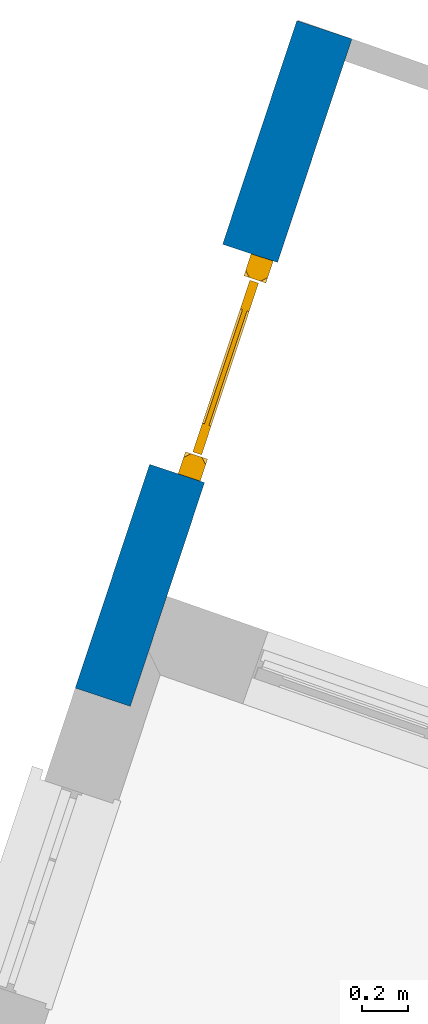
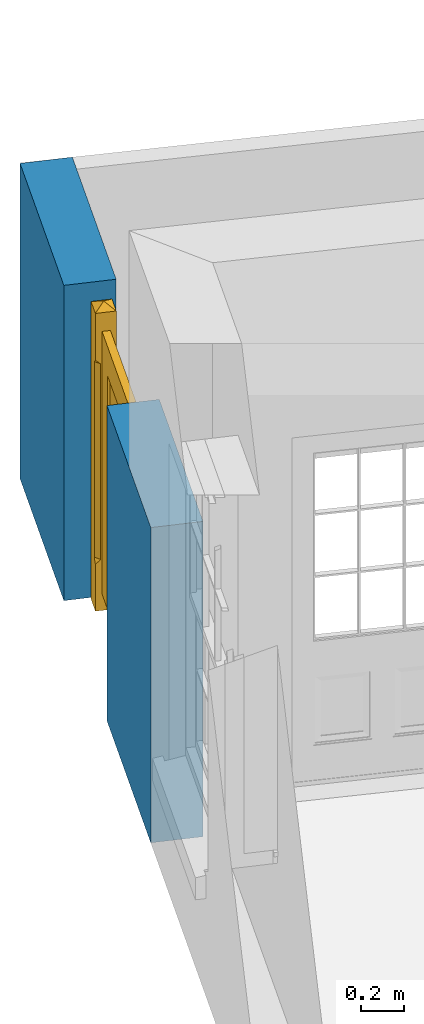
# One storey, part 6 of 10: 1 door, 1 wall, 1 opening.
"""IFC4 building model written with IfcOpenShell, lengths in metres."""

import ifcopenshell
import ifcopenshell.guid

model = None  # the IFC model being written
_history = None  # IfcOwnerHistory: only IFC2X3 demands one
_inside = {}  # id of a spatial element -> (the spatial element, [elements in it])
_under = {}  # id of a project, library or spatial element -> (it, [spatial elements below it])
_declared = {}  # id of a project -> (the project, [libraries it declares])
_typed = {}  # id of a type object -> (the type object, [elements of that type])
_made_of = {}  # id of a material, layer set ... -> (it, [elements and type objects made of it])


def new_model(schema):
    """Start an empty IFC model of exactly this schema.

    Asked for "IFC4X3", IfcOpenShell would pick the latest addendum, in which some entities
    have other attributes; the version numbers below select the first issue.
    IFC2X3 requires an IfcOwnerHistory on every rooted entity: one is made here for all.
    """
    global model, _history
    if schema == "IFC4X3":
        model = ifcopenshell.file(schema_version=(4, 3, 0, 0))
    else:
        model = ifcopenshell.file(schema=schema)
    _inside.clear()
    _under.clear()
    _declared.clear()
    _typed.clear()
    _made_of.clear()
    _history = None
    if model.schema == "IFC2X3":
        org = make("IfcOrganization", Name="unknown")
        user = make(
            "IfcPersonAndOrganization",
            ThePerson=make("IfcPerson", FamilyName="unknown"),
            TheOrganization=org,
        )
        app = make(
            "IfcApplication",
            ApplicationDeveloper=org,
            Version="unknown",
            ApplicationFullName="unknown",
            ApplicationIdentifier="unknown",
        )
        _history = make(
            "IfcOwnerHistory",
            OwningUser=user,
            OwningApplication=app,
            ChangeAction="ADDED",
            CreationDate=0,
        )
    return model


def make(cls, **values):
    """One entity of the class cls with the attributes given. An attribute that is None is left unset."""
    return model.create_entity(
        cls, **{name: value for name, value in values.items() if value is not None}
    )


def rooted(cls, **values):
    """An entity with a GlobalId (a new one), such as an element, a storey or a relation."""
    return make(cls, GlobalId=ifcopenshell.guid.new(), OwnerHistory=_history, **values)


def si_unit(unit_type, name, prefix=None):
    """IfcSIUnit, for example si_unit("LENGTHUNIT", "METRE", prefix="MILLI")."""
    return make("IfcSIUnit", UnitType=unit_type, Prefix=prefix, Name=name)


def assignment(units):
    """IfcUnitAssignment: the units of a project."""
    return None if units is None else make("IfcUnitAssignment", Units=units)


def point(xyz):
    """IfcCartesianPoint."""
    return None if xyz is None else make("IfcCartesianPoint", Coordinates=xyz)


def direction(xyz):
    """IfcDirection."""
    return None if xyz is None else make("IfcDirection", DirectionRatios=xyz)


def frame(location, z_axis=None, x_axis=None):
    """IfcAxis2Placement3D, a coordinate frame: its origin and axes. An axis left out is left unset."""
    return make(
        "IfcAxis2Placement3D",
        Location=point(location),
        Axis=direction(z_axis),
        RefDirection=direction(x_axis),
    )


def origin():
    """The frame at (0, 0, 0) with its axes left unset."""
    return frame((0.0, 0.0, 0.0))


def origin_with_axes():
    """The frame at (0, 0, 0) with the z axis (0, 0, 1) and the x axis (1, 0, 0) written out."""
    return frame((0.0, 0.0, 0.0), z_axis=(0.0, 0.0, 1.0), x_axis=(1.0, 0.0, 0.0))


def place(relative_to, where):
    """IfcLocalPlacement: puts the frame where relative to a parent placement (None: the world)."""
    return make(
        "IfcLocalPlacement", PlacementRelTo=relative_to, RelativePlacement=where
    )


def context(
    kind, dimensions, precision=None, world=None, true_north=None, identifier=None
):
    """IfcGeometricRepresentationContext, for example the 3D "Model" context."""
    return make(
        "IfcGeometricRepresentationContext",
        ContextIdentifier=identifier,
        ContextType=kind,
        CoordinateSpaceDimension=dimensions,
        Precision=precision,
        WorldCoordinateSystem=world,
        TrueNorth=true_north,
    )


def subcontext(parent, identifier, kind, view, scale=None):
    """IfcGeometricRepresentationSubContext, for example "Body" below "Model"."""
    return make(
        "IfcGeometricRepresentationSubContext",
        ContextIdentifier=identifier,
        ContextType=kind,
        ParentContext=parent,
        TargetScale=scale,
        TargetView=view,
    )


def project(units=None, contexts=None):
    """IfcProject with its units and contexts."""
    return rooted(
        "IfcProject",
        Name="project",
        RepresentationContexts=contexts,
        UnitsInContext=assignment(units),
    )


def spatial(cls, under=None, at=None, **own):
    """A site, building, storey or space (cls), placed at a placement, below another one or the project."""
    s = rooted(cls, ObjectPlacement=at, **own)
    if under is not None:
        _under.setdefault(under.id(), (under, []))[1].append(s)
    return s


def polyline(points):
    """IfcPolyline through the points."""
    return make("IfcPolyline", Points=[point(p) for p in points])


def outline(outer, holes=None, kind="AREA"):
    """IfcArbitraryClosedProfileDef: a profile drawn as a closed curve; with holes, ...WithVoids."""
    if holes is None:
        return make("IfcArbitraryClosedProfileDef", ProfileType=kind, OuterCurve=outer)
    return make(
        "IfcArbitraryProfileDefWithVoids",
        ProfileType=kind,
        OuterCurve=outer,
        InnerCurves=holes,
    )


def extrude(swept, where, along, depth):
    """IfcExtrudedAreaSolid: the profile swept, set in the frame where, extruded along a direction by depth."""
    return make(
        "IfcExtrudedAreaSolid",
        SweptArea=swept,
        Position=where,
        ExtrudedDirection=direction(along),
        Depth=depth,
    )


def faces_of(points, faces, orient=None, outer=None):
    """IfcFace entities. A face is a list of loops; a loop is a list of indices into points, from 0.

    orient and outer hold one flag for each loop. By default every Orientation is true, the
    first loop of a face is its IfcFaceOuterBound and the others are IfcFaceBound.
    """
    made = []
    for i, loops in enumerate(faces):
        bounds = []
        for j, loop in enumerate(loops):
            is_outer = j == 0 if outer is None else outer[i][j]
            bounds.append(
                make(
                    "IfcFaceOuterBound" if is_outer else "IfcFaceBound",
                    Bound=make("IfcPolyLoop", Polygon=[points[k] for k in loop]),
                    Orientation=True if orient is None else orient[i][j],
                )
            )
        made.append(make("IfcFace", Bounds=bounds))
    return made


def faceted_brep(points, faces, orient=None, outer=None, voids=None):
    """IfcFacetedBrep: a solid bounded by flat faces; with voids (closed shells), ...WithVoids."""
    shared = [point(p) for p in points]
    hull = make("IfcClosedShell", CfsFaces=faces_of(shared, faces, orient, outer))
    if voids is None:
        return make("IfcFacetedBrep", Outer=hull)
    return make(
        "IfcFacetedBrepWithVoids",
        Outer=hull,
        Voids=[
            make(cls, CfsFaces=faces_of(shared, fs, o, b)) for cls, fs, o, b in voids
        ],
    )


def shape(context_of_items, identifier, shape_type, items):
    """IfcShapeRepresentation: the items that make up one representation, for example the "Body"."""
    return make(
        "IfcShapeRepresentation",
        ContextOfItems=context_of_items,
        RepresentationIdentifier=identifier,
        RepresentationType=shape_type,
        Items=items,
    )


def source(mapping_origin, context_of_items, identifier, shape_type, items):
    """IfcRepresentationMap: a shape defined once, which mapped items show again and again."""
    return make(
        "IfcRepresentationMap",
        MappingOrigin=mapping_origin,
        MappedRepresentation=shape(context_of_items, identifier, shape_type, items),
    )


def transform(
    local_origin,
    x_axis=None,
    y_axis=None,
    z_axis=None,
    scale=None,
    scale2=None,
    scale3=None,
    uniform=True,
):
    """IfcCartesianTransformationOperator3D, or its non-uniform kind. x_axis, y_axis, z_axis: its Axis1, 2, 3."""
    if uniform:
        return make(
            "IfcCartesianTransformationOperator3D",
            Axis1=direction(x_axis),
            Axis2=direction(y_axis),
            LocalOrigin=point(local_origin),
            Scale=scale,
            Axis3=direction(z_axis),
        )
    return make(
        "IfcCartesianTransformationOperator3DnonUniform",
        Axis1=direction(x_axis),
        Axis2=direction(y_axis),
        LocalOrigin=point(local_origin),
        Scale=scale,
        Axis3=direction(z_axis),
        Scale2=scale2,
        Scale3=scale3,
    )


def mapped(mapping_source, mapping_target):
    """IfcMappedItem: shows the shape of a source again, moved by a transform."""
    return make(
        "IfcMappedItem", MappingSource=mapping_source, MappingTarget=mapping_target
    )


def material(Name=None, Category=None):
    """IfcMaterial."""
    return make("IfcMaterial", Name=Name, Category=Category)


def layer(
    of_material, thickness, ventilated=None, Name=None, Category=None, Priority=None
):
    """IfcMaterialLayer: one layer of a wall or slab, of a material (None: an air gap)."""
    return make(
        "IfcMaterialLayer",
        Material=of_material,
        LayerThickness=thickness,
        IsVentilated=ventilated,
        Name=Name,
        Category=Category,
        Priority=Priority,
    )


def layer_set(layers, Name=None):
    """IfcMaterialLayerSet."""
    return make("IfcMaterialLayerSet", MaterialLayers=layers, LayerSetName=Name)


def layer_usage(for_layer_set, set_direction, sense, offset, extent=None):
    """IfcMaterialLayerSetUsage: how a layer set lies in its element."""
    return make(
        "IfcMaterialLayerSetUsage",
        ForLayerSet=for_layer_set,
        LayerSetDirection=set_direction,
        DirectionSense=sense,
        OffsetFromReferenceLine=offset,
        ReferenceExtent=extent,
    )


def made_of(thing, what):
    """Note that an element or type object is made of a material, layer set ...; save() writes the relation."""
    if what is not None:
        _made_of.setdefault(what.id(), (what, []))[1].append(thing)
    return thing


def type_object(cls, material=None, **own):
    """A type object (cls), such as IfcWallType, which elements share."""
    return made_of(rooted(cls, **own), material)


def type_shapes(of_type, sources):
    """Give a type object the sources (RepresentationMaps) that its elements show as mapped items."""
    of_type.RepresentationMaps = sources


def element(
    cls,
    number,
    at=None,
    inside=None,
    cuts=None,
    type_object=None,
    material=None,
    context=None,
    identifier="Body",
    shape_type=None,
    held_by="IfcProductDefinitionShape",
    body=None,
    shapes=None,
    **own,
):
    """One element of the class cls, such as IfcWall. Its Tag is "e" and its number.

    at: its placement. inside: the storey or other place that contains it. cuts: it is an
    opening in that element (IfcRelVoidsElement). A single representation is given by context,
    identifier, shape_type and body (its items); several are given by shapes. held_by: the class
    of the entity that holds the representations. save() writes the other relations.
    """
    e = rooted(cls, Tag="e%d" % number, ObjectPlacement=at, **own)
    if body is not None:
        shapes = [shape(context, identifier, shape_type, body)]
    if shapes is not None:
        e.Representation = make(held_by, Representations=shapes)
    if inside is not None:
        _inside.setdefault(inside.id(), (inside, []))[1].append(e)
    if cuts is not None:
        rooted(
            "IfcRelVoidsElement", RelatingBuildingElement=cuts, RelatedOpeningElement=e
        )
    if type_object is not None:
        _typed.setdefault(type_object.id(), (type_object, []))[1].append(e)
    return made_of(e, material)


def fill(opening, filler):
    """IfcRelFillsElement: the door or window that sits in an opening."""
    return rooted(
        "IfcRelFillsElement",
        RelatingOpeningElement=opening,
        RelatedBuildingElement=filler,
    )


def aggregate(whole, parts):
    """IfcRelAggregates: a whole, such as a stair, and the parts it consists of."""
    return rooted("IfcRelAggregates", RelatingObject=whole, RelatedObjects=parts)


def save(model, path):
    """Write the relations noted so far, then the file.

    IfcRelAggregates (storeys below a building ...), IfcRelContainedInSpatialStructure (elements
    in a storey), IfcRelDefinesByType, IfcRelAssociatesMaterial and IfcRelDeclares: one each for
    every whole, place, type object, material and project.
    """
    for whole, parts in _under.values():
        aggregate(whole, parts)
    for where, things in _inside.values():
        rooted(
            "IfcRelContainedInSpatialStructure",
            RelatedElements=things,
            RelatingStructure=where,
        )
    for kind, things in _typed.values():
        rooted("IfcRelDefinesByType", RelatedObjects=things, RelatingType=kind)
    for what, things in _made_of.values():
        rooted("IfcRelAssociatesMaterial", RelatedObjects=things, RelatingMaterial=what)
    for by, libraries in _declared.values():
        rooted("IfcRelDeclares", RelatingContext=by, RelatedDefinitions=libraries)
    model.write(path)


model = new_model("IFC4")

# Units and contexts
model_context = context("Model", 3, world=origin_with_axes())
body_context = subcontext(model_context, "Body", "Model", "MODEL_VIEW")
ifc_project = project(units=[si_unit("PLANEANGLEUNIT", "RADIAN"), si_unit("MASSUNIT", "GRAM", prefix="KILO"), si_unit("FORCEUNIT", "NEWTON", prefix="KILO"), si_unit("LENGTHUNIT", "METRE"), si_unit("AREAUNIT", "SQUARE_METRE"), si_unit("VOLUMEUNIT", "CUBIC_METRE")], contexts=[model_context, model_context])

# Sites, building, storey
site_1_placement = place(None, origin_with_axes())
site_1 = spatial("IfcSite", under=ifc_project, at=site_1_placement, Name="Tamar")
site_2_placement = place(site_1_placement, origin_with_axes())
site_2 = spatial("IfcSite", under=site_1, at=site_2_placement, Name="Site plot-15", CompositionType="ELEMENT")
building_placement = place(None, origin_with_axes())
building = spatial("IfcBuilding", under=site_2, at=building_placement, Name="Building plot-15", CompositionType="ELEMENT")
storey_placement = place(None, frame((0.0, 0.0, 26.8), z_axis=(0.0, 0.0, 1.0), x_axis=(1.0, 0.0, 0.0)))
storey = spatial("IfcBuildingStorey", under=building, at=storey_placement, Name="plot-15 0", CompositionType="ELEMENT", Elevation=26.8)

# Wall, opening, door
ifc_material = material(Name="Masonry")
ifc_layer = layer(ifc_material, 0.25, ventilated=False)
ifc_layer_set = layer_set([ifc_layer], Name="fence_0_0.25")
ifc_layer_usage = layer_usage(ifc_layer_set, "AXIS2", "POSITIVE", -0.25)
wall_type = type_object("IfcWallType", Name="fence_0_0.25", PredefinedType="SOLIDWALL", material=ifc_layer_set)
wall_placement = place(storey_placement, frame((259.450160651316, 313.423448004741, 0.0), z_axis=(0.0, 0.0, 1.0), x_axis=(-0.315038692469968, -0.949078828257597, 0.0)))
wall = element("IfcWall", 1, at=wall_placement, inside=storey, type_object=wall_type, material=ifc_layer_usage, Name="fence", context=body_context, shape_type="SweptSolid", body=[
    extrude(outline(polyline([(-0.249999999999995, -1.66839615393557e-14), (-0.249999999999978, -0.250000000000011), (2.78285793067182, -0.249999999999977), (2.78285793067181, 1.73017205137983e-14), (-0.249999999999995, -1.66839615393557e-14)])), origin_with_axes(), (0.0, 0.0, 1.0), 1.8),
])
opening_placement = place(wall_placement, frame((0.766428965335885, 0.0, -0.0100000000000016)))
opening = element("IfcOpeningElement", 2, at=opening_placement, cuts=wall, Name="My Opening", ObjectType="Opening", context=body_context, shape_type="SweptSolid", body=[
    extrude(outline(polyline([(0.0, -0.269999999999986), (0.999999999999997, -0.269999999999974), (0.999999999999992, 1.01999999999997), (-4.21884749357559e-15, 1.01999999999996), (0.0, -0.269999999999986)])), origin_with_axes(), (0.0, 0.0, 1.0), 1.81),
])
door_type = type_object("IfcDoorType", Name="gate-small", OperationType="SINGLE_SWING_LEFT", PredefinedType="NOTDEFINED")
shared_shape = source(origin(), body_context, "Body", "Brep", [
    faceted_brep([(0.9, 0.25, 1.7), (0.9, 0.15, 1.7), (0.95, 0.2, 1.73), (1.0, 0.15, 1.433333), (1.0, 0.15, 1.7), (0.9, 0.15, 1.433333), (0.9, 0.25, 1.433333), (0.9, 0.25, 0.0), (1.0, 0.25, 0.0), (1.0, 0.15, 0.0), (0.9, 0.15, 0.0), (1.0, 0.25, 1.433333), (1.0, 0.25, 1.7), (0.9, 0.25, 0.266667), (1.0, 0.25, 0.266667), (1.0, 0.25, 0.291667), (0.925, 0.25, 0.291667), (0.925, 0.25, 1.408333), (1.0, 0.25, 1.408333), (1.0, 0.15, 0.266667), (1.0, 0.15, 0.291667), (1.0, 0.15, 1.408333), (0.9, 0.15, 0.266667), (0.9, 0.175, 0.291667), (0.9, 0.225, 0.291667), (0.925, 0.15, 0.291667), (0.9, 0.175, 1.408333), (0.925, 0.15, 1.408333), (0.9, 0.225, 1.408333), (0.0, 0.25, 1.7), (0.0, 0.15, 1.7), (0.05, 0.2, 1.73), (0.0, 0.25, 1.433333), (0.1, 0.25, 1.7), (0.1, 0.25, 1.433333), (0.1, 0.15, 1.7), (0.1, 0.15, 1.433333), (0.1, 0.15, 0.0), (0.0, 0.15, 0.0), (0.0, 0.25, 0.0), (0.1, 0.25, 0.0), (0.0, 0.15, 1.433333), (0.1, 0.15, 0.266667), (0.0, 0.15, 0.266667), (0.0, 0.15, 0.291667), (0.075, 0.15, 0.291667), (0.075, 0.15, 1.408333), (0.0, 0.15, 1.408333), (0.0, 0.25, 0.266667), (0.0, 0.25, 0.291667), (0.0, 0.25, 1.408333), (0.1, 0.25, 0.266667), (0.1, 0.225, 0.291667), (0.1, 0.175, 0.291667), (0.075, 0.25, 0.291667), (0.1, 0.225, 1.408333), (0.075, 0.25, 1.408333), (0.1, 0.175, 1.408333), (0.11, 0.18, 1.433333), (0.11, 0.18, 1.6), (0.11, 0.22, 1.6), (0.11, 0.22, 1.433333), (0.76, 0.22, 1.433333), (0.76, 0.22, 1.6), (0.89, 0.22, 1.6), (0.89, 0.22, 1.433333), (0.89, 0.18, 1.6), (0.89, 0.18, 1.433333), (0.24, 0.18, 1.433333), (0.24, 0.18, 1.6), (0.76, 0.22, 0.1), (0.89, 0.22, 0.1), (0.89, 0.18, 0.1), (0.76, 0.18, 0.1), (0.24, 0.22, 1.6), (0.76, 0.18, 1.6), (0.11, 0.22, 0.1), (0.24, 0.22, 0.1), (0.24, 0.18, 0.1), (0.11, 0.18, 0.1), (0.76, 0.18, 1.433333), (0.24, 0.22, 1.433333), (0.76, 0.18, 0.266667), (0.24, 0.18, 0.266667), (0.24, 0.22, 0.933333), (0.11, 0.22, 0.933333), (0.76, 0.18, 0.933333), (0.24, 0.18, 0.933333), (0.24, 0.18, 0.766667), (0.76, 0.18, 0.766667), (0.11, 0.22, 0.766667), (0.24, 0.22, 0.766667), (0.24, 0.22, 0.266667), (0.11, 0.22, 0.266667), (0.76, 0.22, 0.766667), (0.76, 0.21, 0.766667), (0.24, 0.21, 0.766667), (0.76, 0.22, 0.933333), (0.76, 0.21, 0.933333), (0.76, 0.21, 1.433333), (0.76, 0.22, 0.266667), (0.89, 0.18, 0.766667), (0.89, 0.18, 0.266667), (0.89, 0.18, 0.933333), (0.11, 0.18, 0.766667), (0.11, 0.18, 0.266667), (0.11, 0.18, 0.933333), (0.89, 0.22, 0.766667), (0.89, 0.22, 0.266667), (0.89, 0.22, 0.933333), (0.76, 0.19, 0.266667), (0.24, 0.19, 0.266667), (0.76, 0.19, 0.933333), (0.24, 0.19, 0.933333), (0.24, 0.19, 1.433333), (0.76, 0.19, 1.433333), (0.24, 0.19, 0.766667), (0.76, 0.19, 0.766667), (0.24, 0.21, 1.433333), (0.24, 0.21, 0.933333), (0.76, 0.21, 0.266667), (0.24, 0.21, 0.266667)], [[[0, 1, 2]], [[3, 4, 1]], [[3, 1, 5]], [[5, 1, 0]], [[5, 0, 6]], [[7, 8, 9]], [[7, 9, 10]], [[11, 12, 4]], [[11, 4, 3]], [[6, 0, 12]], [[6, 12, 11]], [[7, 13, 14]], [[7, 14, 8]], [[15, 14, 13]], [[15, 13, 16]], [[17, 18, 15]], [[17, 15, 16]], [[17, 6, 11]], [[17, 11, 18]], [[8, 14, 19]], [[8, 19, 9]], [[14, 15, 20]], [[14, 20, 19]], [[15, 18, 21]], [[15, 21, 20]], [[18, 11, 3]], [[18, 3, 21]], [[10, 22, 13]], [[10, 13, 7]], [[23, 24, 13]], [[23, 13, 22]], [[25, 23, 22]], [[5, 26, 27]], [[9, 19, 22]], [[9, 22, 10]], [[19, 20, 25]], [[19, 25, 22]], [[28, 17, 16]], [[28, 16, 24]], [[21, 3, 5]], [[21, 5, 27]], [[21, 27, 25]], [[21, 25, 20]], [[25, 27, 26]], [[25, 26, 23]], [[16, 13, 24]], [[26, 28, 24]], [[26, 24, 23]], [[28, 26, 5]], [[28, 5, 6]], [[17, 28, 6]], [[29, 30, 31]], [[32, 29, 33]], [[32, 33, 34]], [[34, 33, 35]], [[34, 35, 36]], [[37, 38, 39]], [[37, 39, 40]], [[41, 30, 29]], [[41, 29, 32]], [[36, 35, 30]], [[36, 30, 41]], [[37, 42, 43]], [[37, 43, 38]], [[44, 43, 42]], [[44, 42, 45]], [[46, 47, 44]], [[46, 44, 45]], [[46, 36, 41]], [[46, 41, 47]], [[38, 43, 48]], [[38, 48, 39]], [[43, 44, 49]], [[43, 49, 48]], [[44, 47, 50]], [[44, 50, 49]], [[47, 41, 32]], [[47, 32, 50]], [[40, 51, 42]], [[40, 42, 37]], [[52, 53, 42]], [[52, 42, 51]], [[54, 52, 51]], [[34, 55, 56]], [[39, 48, 51]], [[39, 51, 40]], [[48, 49, 54]], [[48, 54, 51]], [[57, 46, 45]], [[57, 45, 53]], [[50, 32, 34]], [[50, 34, 56]], [[50, 56, 54]], [[50, 54, 49]], [[54, 56, 55]], [[54, 55, 52]], [[45, 42, 53]], [[55, 57, 53]], [[55, 53, 52]], [[57, 55, 34]], [[57, 34, 36]], [[46, 57, 36]], [[33, 29, 31]], [[35, 33, 31]], [[35, 31, 30]], [[12, 0, 2]], [[4, 12, 2]], [[4, 2, 1]], [[58, 59, 60]], [[58, 60, 61]], [[62, 63, 64]], [[62, 64, 65]], [[65, 64, 66]], [[65, 66, 67]], [[68, 69, 59]], [[68, 59, 58]], [[70, 71, 72]], [[70, 72, 73]], [[74, 60, 59]], [[74, 59, 69]], [[64, 63, 75]], [[64, 75, 66]], [[74, 69, 75]], [[74, 75, 63]], [[76, 77, 78]], [[76, 78, 79]], [[77, 70, 73]], [[77, 73, 78]], [[67, 66, 75]], [[67, 75, 80]], [[81, 74, 63]], [[81, 63, 62]], [[61, 60, 74]], [[61, 74, 81]], [[82, 83, 78]], [[82, 78, 73]], [[75, 69, 68]], [[75, 68, 80]], [[61, 81, 84]], [[61, 84, 85]], [[86, 87, 88]], [[86, 88, 89]], [[90, 91, 92]], [[90, 92, 93]], [[76, 93, 92]], [[76, 92, 77]], [[91, 94, 95]], [[91, 95, 96]], [[90, 85, 84]], [[90, 84, 91]], [[62, 97, 98]], [[62, 98, 99]], [[77, 92, 100]], [[77, 100, 70]], [[101, 89, 82]], [[101, 82, 102]], [[91, 84, 97]], [[91, 97, 94]], [[67, 80, 86]], [[67, 86, 103]], [[72, 102, 82]], [[72, 82, 73]], [[88, 104, 105]], [[88, 105, 83]], [[101, 103, 86]], [[101, 86, 89]], [[68, 58, 106]], [[68, 106, 87]], [[78, 83, 105]], [[78, 105, 79]], [[107, 101, 102]], [[107, 102, 108]], [[88, 87, 106]], [[88, 106, 104]], [[65, 67, 103]], [[65, 103, 109]], [[71, 108, 102]], [[71, 102, 72]], [[94, 107, 108]], [[94, 108, 100]], [[107, 109, 103]], [[107, 103, 101]], [[62, 65, 109]], [[62, 109, 97]], [[70, 100, 108]], [[70, 108, 71]], [[105, 104, 90]], [[105, 90, 93]], [[94, 97, 109]], [[94, 109, 107]], [[106, 58, 61]], [[106, 61, 85]], [[79, 105, 93]], [[79, 93, 76]], [[83, 82, 110]], [[83, 110, 111]], [[104, 106, 85]], [[104, 85, 90]], [[87, 86, 112]], [[87, 112, 113]], [[114, 113, 112]], [[114, 112, 115]], [[68, 87, 113]], [[68, 113, 114]], [[80, 68, 114]], [[80, 114, 115]], [[86, 80, 115]], [[86, 115, 112]], [[116, 111, 110]], [[116, 110, 117]], [[88, 83, 111]], [[88, 111, 116]], [[89, 88, 116]], [[89, 116, 117]], [[82, 89, 117]], [[82, 117, 110]], [[118, 99, 98]], [[118, 98, 119]], [[84, 81, 118]], [[84, 118, 119]], [[81, 62, 99]], [[81, 99, 118]], [[97, 84, 119]], [[97, 119, 98]], [[96, 95, 120]], [[96, 120, 121]], [[94, 100, 120]], [[94, 120, 95]], [[100, 92, 121]], [[100, 121, 120]], [[92, 91, 96]], [[92, 96, 121]]]),
])
type_shapes(door_type, [shared_shape])
door_placement = place(storey_placement, frame((258.952454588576, 312.781106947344, -0.0100000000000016), z_axis=(0.0, 0.0, 1.0), x_axis=(-0.315038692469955, -0.949078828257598, 0.0)))
door = element("IfcDoor", 3, at=door_placement, inside=storey, type_object=door_type, Name="gate", OverallHeight=1.81, OverallWidth=1.0, context=body_context, shape_type="MappedRepresentation", body=[
    mapped(shared_shape, transform((0.0, 0.0, 0.0), scale=1.0)),
])
fill(opening, door)

save(model, "model.ifc")
